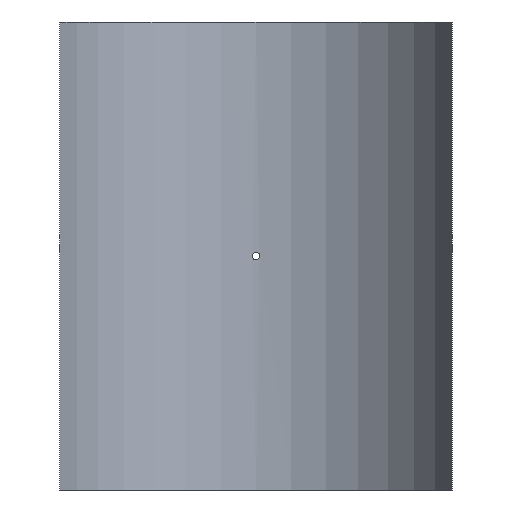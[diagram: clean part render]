
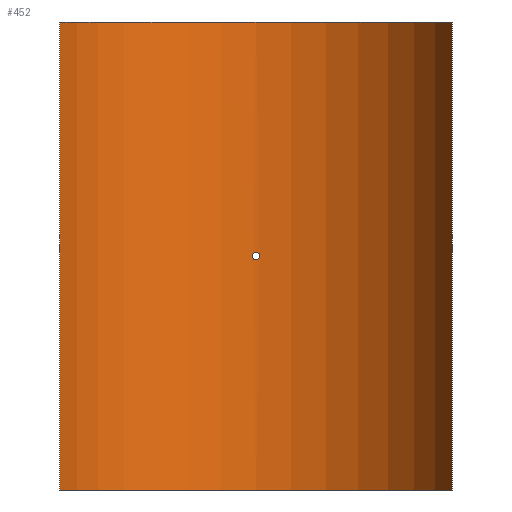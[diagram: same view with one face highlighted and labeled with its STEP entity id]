
A CAD part, front view. The second image highlights one B-rep face of the part: STEP entity #452.
In plain terms, the highlighted cylindrical face has radius 280 mm (diameter 560 mm), a partial arc.
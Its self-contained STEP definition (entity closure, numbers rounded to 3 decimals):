
#19=B_SPLINE_CURVE_WITH_KNOTS('',3,(#788,#789,#790,#791,#792,#793,#794,
#795,#796,#797,#798,#799,#800,#801,#802,#803,#804,#805,#806,#807,#808,#809,
#810,#811,#812,#813,#814,#815,#816,#817,#818,#819,#820,#821),
 .UNSPECIFIED.,.T.,.F.,(4,2,2,2,2,2,2,2,2,2,2,2,2,2,2,2,4),(0.,0.181,
0.362,0.542,0.723,0.904,
1.085,1.266,1.447,1.627,1.808,
1.989,2.17,2.351,2.531,2.712,
2.893),.UNSPECIFIED.);
#43=LINE('',#1097,#62);
#44=LINE('',#1100,#63);
#62=VECTOR('',#661,10.);
#63=VECTOR('',#664,10.);
#76=CYLINDRICAL_SURFACE('',#530,280.);
#88=FACE_BOUND('',#167,.T.);
#127=FACE_OUTER_BOUND('',#166,.T.);
#166=EDGE_LOOP('',(#405,#406,#407,#408));
#167=EDGE_LOOP('',(#409));
#201=CIRCLE('',#529,280.);
#202=CIRCLE('',#531,280.);
#219=VERTEX_POINT('',#786);
#242=VERTEX_POINT('',#1090);
#243=VERTEX_POINT('',#1092);
#244=VERTEX_POINT('',#1096);
#245=VERTEX_POINT('',#1098);
#267=EDGE_CURVE('',#219,#219,#19,.T.);
#299=EDGE_CURVE('',#242,#243,#201,.T.);
#301=EDGE_CURVE('',#244,#242,#43,.T.);
#302=EDGE_CURVE('',#245,#244,#202,.T.);
#303=EDGE_CURVE('',#245,#243,#44,.T.);
#405=ORIENTED_EDGE('',*,*,#301,.F.);
#406=ORIENTED_EDGE('',*,*,#302,.F.);
#407=ORIENTED_EDGE('',*,*,#303,.T.);
#408=ORIENTED_EDGE('',*,*,#299,.F.);
#409=ORIENTED_EDGE('',*,*,#267,.T.);
#452=ADVANCED_FACE('',(#127,#88),#76,.F.);
#529=AXIS2_PLACEMENT_3D('',#1093,#656,#657);
#530=AXIS2_PLACEMENT_3D('',#1095,#659,#660);
#531=AXIS2_PLACEMENT_3D('',#1099,#662,#663);
#656=DIRECTION('center_axis',(0.,0.,1.));
#657=DIRECTION('ref_axis',(0.914,0.405,0.));
#659=DIRECTION('center_axis',(0.,0.,1.));
#660=DIRECTION('ref_axis',(0.914,0.405,0.));
#661=DIRECTION('',(0.,0.,-1.));
#662=DIRECTION('center_axis',(0.,0.,-1.));
#663=DIRECTION('ref_axis',(0.914,0.405,0.));
#664=DIRECTION('',(0.,0.,-1.));
#786=CARTESIAN_POINT('',(4.8,279.959,0.));
#788=CARTESIAN_POINT('Ctrl Pts',(4.8,279.959,0.));
#789=CARTESIAN_POINT('Ctrl Pts',(4.8,279.959,-0.603));
#790=CARTESIAN_POINT('Ctrl Pts',(4.68,279.961,-1.246));
#791=CARTESIAN_POINT('Ctrl Pts',(4.19,279.969,-2.428));
#792=CARTESIAN_POINT('Ctrl Pts',(3.82,279.974,-2.968));
#793=CARTESIAN_POINT('Ctrl Pts',(2.968,279.985,-3.82));
#794=CARTESIAN_POINT('Ctrl Pts',(2.428,279.99,-4.19));
#795=CARTESIAN_POINT('Ctrl Pts',(1.246,279.998,-4.68));
#796=CARTESIAN_POINT('Ctrl Pts',(0.603,280.,-4.8));
#797=CARTESIAN_POINT('Ctrl Pts',(-0.603,280.,-4.8));
#798=CARTESIAN_POINT('Ctrl Pts',(-1.246,279.998,-4.68));
#799=CARTESIAN_POINT('Ctrl Pts',(-2.428,279.99,-4.19));
#800=CARTESIAN_POINT('Ctrl Pts',(-2.968,279.985,-3.82));
#801=CARTESIAN_POINT('Ctrl Pts',(-3.82,279.974,-2.968));
#802=CARTESIAN_POINT('Ctrl Pts',(-4.19,279.969,-2.428));
#803=CARTESIAN_POINT('Ctrl Pts',(-4.68,279.961,-1.246));
#804=CARTESIAN_POINT('Ctrl Pts',(-4.8,279.959,-0.603));
#805=CARTESIAN_POINT('Ctrl Pts',(-4.8,279.959,0.603));
#806=CARTESIAN_POINT('Ctrl Pts',(-4.68,279.961,1.246));
#807=CARTESIAN_POINT('Ctrl Pts',(-4.19,279.969,2.428));
#808=CARTESIAN_POINT('Ctrl Pts',(-3.82,279.974,2.968));
#809=CARTESIAN_POINT('Ctrl Pts',(-2.968,279.985,3.82));
#810=CARTESIAN_POINT('Ctrl Pts',(-2.428,279.99,4.19));
#811=CARTESIAN_POINT('Ctrl Pts',(-1.246,279.998,4.68));
#812=CARTESIAN_POINT('Ctrl Pts',(-0.603,280.,4.8));
#813=CARTESIAN_POINT('Ctrl Pts',(0.603,280.,4.8));
#814=CARTESIAN_POINT('Ctrl Pts',(1.246,279.998,4.68));
#815=CARTESIAN_POINT('Ctrl Pts',(2.428,279.99,4.19));
#816=CARTESIAN_POINT('Ctrl Pts',(2.968,279.985,3.82));
#817=CARTESIAN_POINT('Ctrl Pts',(3.82,279.974,2.968));
#818=CARTESIAN_POINT('Ctrl Pts',(4.19,279.969,2.428));
#819=CARTESIAN_POINT('Ctrl Pts',(4.68,279.961,1.246));
#820=CARTESIAN_POINT('Ctrl Pts',(4.8,279.959,0.603));
#821=CARTESIAN_POINT('Ctrl Pts',(4.8,279.959,0.));
#1090=CARTESIAN_POINT('',(256.,113.42,-305.));
#1092=CARTESIAN_POINT('',(-256.,113.42,-305.));
#1093=CARTESIAN_POINT('Origin',(0.,0.,
-305.));
#1095=CARTESIAN_POINT('Origin',(0.,0.,
0.));
#1096=CARTESIAN_POINT('',(256.,113.42,305.));
#1097=CARTESIAN_POINT('',(256.,113.42,0.));
#1098=CARTESIAN_POINT('',(-256.,113.42,305.));
#1099=CARTESIAN_POINT('Origin',(0.,0.,
305.));
#1100=CARTESIAN_POINT('',(-256.,113.42,0.));
